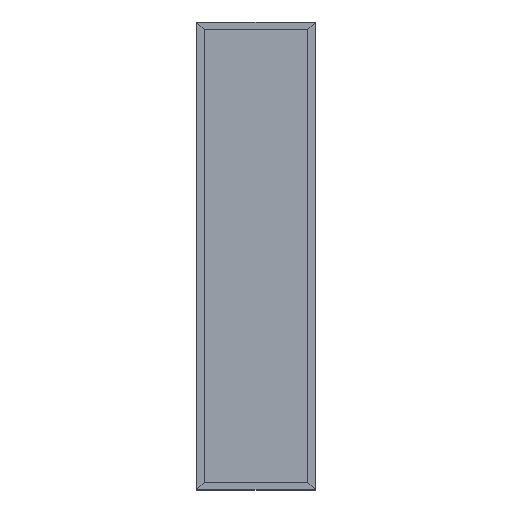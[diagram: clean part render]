
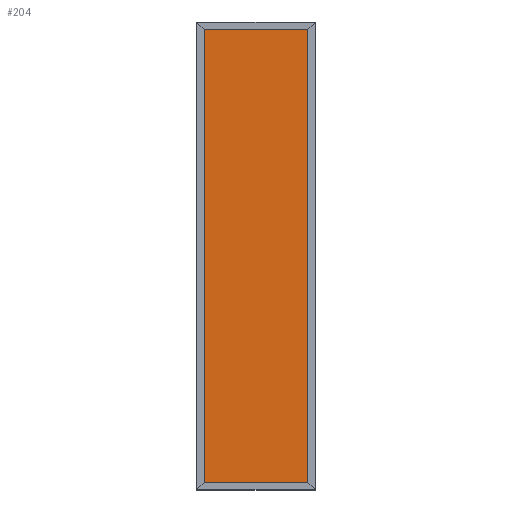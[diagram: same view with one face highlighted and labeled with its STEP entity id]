
A CAD part, top view. The second image highlights one B-rep face of the part: STEP entity #204.
In plain terms, the highlighted planar face has unit normal (0, 0, 1).
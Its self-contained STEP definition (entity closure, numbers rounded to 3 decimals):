
#98 = EDGE_LOOP ( 'NONE', ( #11076, #8236, #10267, #20500 ) ) ;
#204 = ADVANCED_FACE ( 'NONE', ( #7119 ), #15304, .F. ) ;
#441 = DIRECTION ( 'NONE',  ( -1., 0., 0. ) ) ;
#448 = CARTESIAN_POINT ( 'NONE',  ( -267.075, 0., -13.25 ) ) ;
#1886 = VERTEX_POINT ( 'NONE', #13485 ) ;
#1933 = LINE ( 'NONE', #5332, #20257 ) ;
#2039 = DIRECTION ( 'NONE',  ( 0., 1., 0. ) ) ;
#3053 = EDGE_CURVE ( 'NONE', #18055, #11356, #1933, .T. ) ;
#3377 = CARTESIAN_POINT ( 'NONE',  ( 267.075, -1162.2, -13.25 ) ) ;
#4135 = EDGE_CURVE ( 'NONE', #11356, #18295, #19381, .T. ) ;
#4710 = DIRECTION ( 'NONE',  ( -1., 0., 0. ) ) ;
#4828 = LINE ( 'NONE', #19614, #9632 ) ;
#5227 = LINE ( 'NONE', #448, #10315 ) ;
#5304 = VECTOR ( 'NONE', #4710, 1000. ) ;
#5332 = CARTESIAN_POINT ( 'NONE',  ( 267.075, 0., -13.25 ) ) ;
#7119 = FACE_OUTER_BOUND ( 'NONE', #98, .T. ) ;
#8236 = ORIENTED_EDGE ( 'NONE', *, *, #3053, .T. ) ;
#9632 = VECTOR ( 'NONE', #18006, 1000. ) ;
#10267 = ORIENTED_EDGE ( 'NONE', *, *, #4135, .T. ) ;
#10315 = VECTOR ( 'NONE', #2039, 1000. ) ;
#11076 = ORIENTED_EDGE ( 'NONE', *, *, #15689, .F. ) ;
#11135 = AXIS2_PLACEMENT_3D ( 'NONE', #20000, #11812, #441 ) ;
#11356 = VERTEX_POINT ( 'NONE', #12972 ) ;
#11812 = DIRECTION ( 'NONE',  ( 0., 0., -1. ) ) ;
#12972 = CARTESIAN_POINT ( 'NONE',  ( 267.075, 1162.2, -13.25 ) ) ;
#13485 = CARTESIAN_POINT ( 'NONE',  ( -267.075, -1162.2, -13.25 ) ) ;
#15304 = PLANE ( 'NONE',  #11135 ) ;
#15689 = EDGE_CURVE ( 'NONE', #18055, #1886, #4828, .T. ) ;
#16008 = CARTESIAN_POINT ( 'NONE',  ( -267.075, 1162.2, -13.25 ) ) ;
#16079 = EDGE_CURVE ( 'NONE', #1886, #18295, #5227, .T. ) ;
#16081 = CARTESIAN_POINT ( 'NONE',  ( 0., 1162.2, -13.25 ) ) ;
#18006 = DIRECTION ( 'NONE',  ( -1., 0., 0. ) ) ;
#18055 = VERTEX_POINT ( 'NONE', #3377 ) ;
#18295 = VERTEX_POINT ( 'NONE', #16008 ) ;
#19381 = LINE ( 'NONE', #16081, #5304 ) ;
#19614 = CARTESIAN_POINT ( 'NONE',  ( 0., -1162.2, -13.25 ) ) ;
#19691 = DIRECTION ( 'NONE',  ( 0., 1., 0. ) ) ;
#20000 = CARTESIAN_POINT ( 'NONE',  ( 0., 0., -13.25 ) ) ;
#20257 = VECTOR ( 'NONE', #19691, 1000. ) ;
#20500 = ORIENTED_EDGE ( 'NONE', *, *, #16079, .F. ) ;
